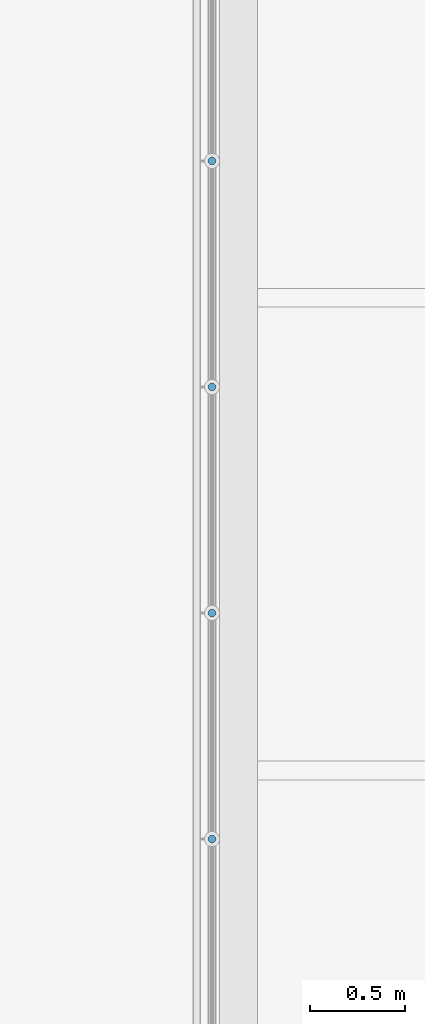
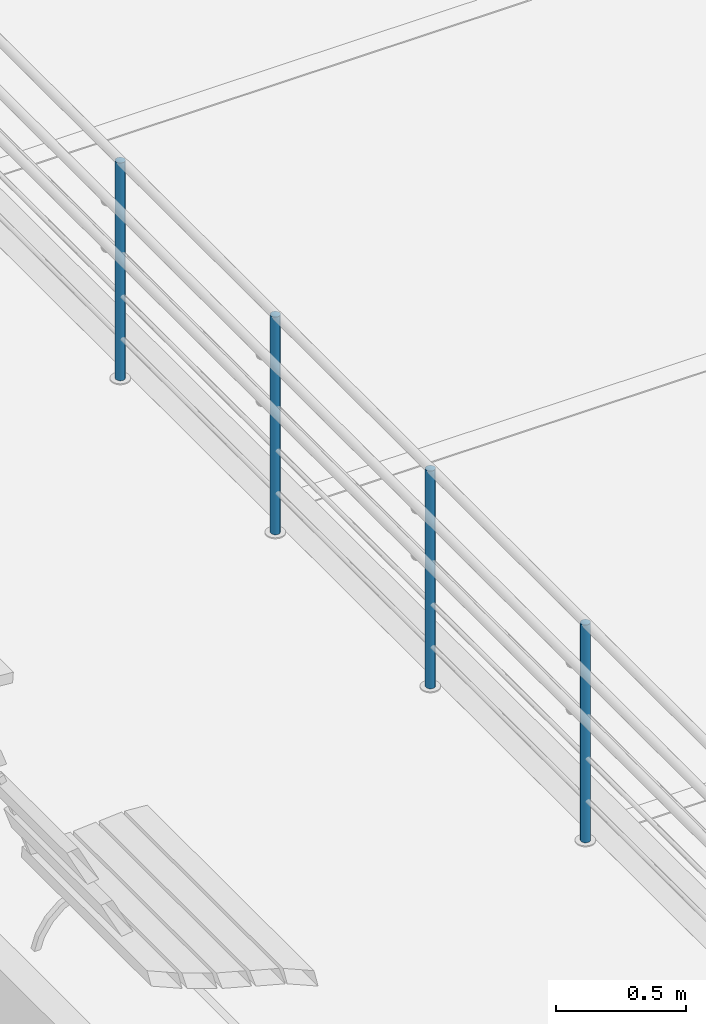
# One storey, part 77 of 237: 4 building element parts, 1 element without a shape of its own.
"""IFC2X3 building model written with IfcOpenShell, lengths in millimetres."""

from ifc_helpers import new_model, entity, si_unit, converted_unit, derived_unit, money_unit, direction, frame, origin_with_axes, place, context, subcontext, project, spatial, faceted_brep, material, type_object, element, aggregate, save


model = new_model("IFC2X3")

# Units and contexts
model_context = context("Model", 3, precision=0.01, world=origin_with_axes(), true_north=direction((0.0, 1.0)))
body_context = subcontext(model_context, "Body", "Model", "MODEL_VIEW")
ifc_project = project(units=[si_unit("LENGTHUNIT", "METRE", prefix="MILLI"), si_unit("AREAUNIT", "SQUARE_METRE"), si_unit("VOLUMEUNIT", "CUBIC_METRE"), converted_unit("PLANEANGLEUNIT", "DEGREE", entity("IfcPlaneAngleMeasure", 0.0174532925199), si_unit("PLANEANGLEUNIT", "RADIAN"), dimensions=[0, 0, 0, 0, 0, 0, 0]), money_unit("USD"), converted_unit("TIMEUNIT", "Year", entity("IfcTimeMeasure", 31556926.0), si_unit("TIMEUNIT", "SECOND"), dimensions=[0, 0, 1, 0, 0, 0, 0]), si_unit("MASSUNIT", "GRAM", prefix="KILO"), si_unit("THERMODYNAMICTEMPERATUREUNIT", "DEGREE_CELSIUS"), si_unit("LUMINOUSINTENSITYUNIT", "LUMEN"), si_unit("ENERGYUNIT", "JOULE", prefix="MEGA"), derived_unit("THERMALCONDUCTANCEUNIT", [(si_unit("POWERUNIT", "WATT"), 1), (si_unit("LENGTHUNIT", "METRE"), -1), (si_unit("THERMODYNAMICTEMPERATUREUNIT", "KELVIN"), -1)]), derived_unit("SPECIFICHEATCAPACITYUNIT", [(si_unit("ENERGYUNIT", "JOULE"), 1), (si_unit("MASSUNIT", "GRAM", prefix="KILO"), -1), (si_unit("THERMODYNAMICTEMPERATUREUNIT", "KELVIN"), -1)]), derived_unit("MASSDENSITYUNIT", [(si_unit("MASSUNIT", "GRAM", prefix="KILO"), 1), (si_unit("VOLUMEUNIT", "CUBIC_METRE"), -1)])], contexts=[model_context])

# Site, building, storey
site_placement = place(None, origin_with_axes())
site = spatial("IfcSite", under=ifc_project, at=site_placement, Name="Local", CompositionType="ELEMENT")
building_placement = place(site_placement, origin_with_axes())
building = spatial("IfcBuilding", under=site, at=building_placement, Name="Construção", CompositionType="ELEMENT")
storey_placement = place(building_placement, origin_with_axes())
storey = spatial("IfcBuildingStorey", under=building, at=storey_placement, Name="Pavimento Térreo", CompositionType="ELEMENT", Elevation=0.0)

# Railing, building element parts
railing_type = type_object("IfcRailingType", Name="Tipo de Guarda-Corpo", PredefinedType="NOTDEFINED")
railing_placement = place(storey_placement, frame((104000.0, 14000.0, -7099.22292764), z_axis=(0.0, 0.0, 1.0), x_axis=(1.0, 0.0, 0.0)))
railing = element("IfcRailing", 1, at=railing_placement, inside=storey, type_object=railing_type, Name="Guarda-Corpo - 001", PredefinedType="NOTDEFINED")
ifc_material = material(Name="Aço - Inoxidável")
building_element_part_1_placement = place(railing_placement, origin_with_axes())
building_element_part_1 = element("IfcBuildingElementPart", 2, at=building_element_part_1_placement, material=ifc_material, Name="Aço - Inoxidável", context=body_context, shape_type="Brep", body=[
    faceted_brep([(-3756.26416873, 5534.20454258, 2109.61538462), (-3755.96036975, 5537.67751016, 2109.61538462), (-3755.96036975, 5537.67751016, 3134.61538462), (-3756.26416873, 5534.20454258, 3134.61538462), (-3756.26426065, 5541.15046969, 2109.61538462), (-3757.16642681, 5530.83709133, 2109.61538462), (-3758.63972933, 5527.6774747, 2109.61538462), (-3760.63931075, 5524.82169604, 2109.61538462), (-3763.1044148, 5522.35652675, 2109.61538462), (-3765.96014053, 5520.35686974, 2109.61538462), (-3769.11971816, 5518.88348359, 2109.61538462), (-3772.48714554, 5517.98113638, 2109.61538462), (-3775.96010507, 5517.67724548, 2109.61538462), (-3779.43307264, 5517.98104446, 2109.61538462), (-3782.8005239, 5518.88330254, 2109.61538462), (-3785.96014053, 5520.35660507, 2109.61538462), (-3788.81591918, 5522.35618649, 2109.61538462), (-3791.28108848, 5524.82129053, 2109.61538462), (-3793.28074548, 5527.67701626, 2109.61538462), (-3794.75413164, 5530.8365939, 2109.61538462), (-3795.65647884, 5534.20402127, 2109.61538462), (-3795.96036975, 5537.6769808, 2109.61538462), (-3795.65657077, 5541.14994837, 2109.61538462), (-3794.75431269, 5544.51739963, 2109.61538462), (-3793.28101016, 5547.67701626, 2109.61538462), (-3791.28142874, 5550.53279492, 2109.61538462), (-3788.8163247, 5552.99796421, 2109.61538462), (-3785.96059896, 5554.99762121, 2109.61538462), (-3782.80102133, 5556.47100737, 2109.61538462), (-3779.43359396, 5557.37335458, 2109.61538462), (-3775.96063443, 5557.67724548, 2109.61538462), (-3772.48766685, 5557.3734465, 2109.61538462), (-3769.1202156, 5556.47118842, 2109.61538462), (-3765.96059897, 5554.99788589, 2109.61538462), (-3763.10482031, 5552.99830447, 2109.61538462), (-3760.63965102, 5550.53320043, 2109.61538462), (-3758.63999401, 5547.6774747, 2109.61538462), (-3757.16660786, 5544.51789706, 2109.61538462), (-3756.26426065, 5541.15046969, 3134.61538462), (-3779.43307264, 5517.98104446, 3134.61538462), (-3775.96010507, 5517.67724548, 3134.61538462), (-3772.48714554, 5517.98113638, 3134.61538462), (-3769.11971816, 5518.88348359, 3134.61538462), (-3765.96014053, 5520.35686974, 3134.61538462), (-3763.1044148, 5522.35652675, 3134.61538462), (-3760.63931075, 5524.82169604, 3134.61538462), (-3758.63972933, 5527.6774747, 3134.61538462), (-3757.16642681, 5530.83709133, 3134.61538462), (-3757.16660786, 5544.51789706, 3134.61538462), (-3758.63999401, 5547.6774747, 3134.61538462), (-3760.63965102, 5550.53320043, 3134.61538462), (-3763.10482031, 5552.99830447, 3134.61538462), (-3765.96059897, 5554.99788589, 3134.61538462), (-3769.1202156, 5556.47118842, 3134.61538462), (-3772.48766685, 5557.3734465, 3134.61538462), (-3775.96063443, 5557.67724548, 3134.61538462), (-3779.43359396, 5557.37335458, 3134.61538462), (-3782.80102133, 5556.47100737, 3134.61538462), (-3785.96059896, 5554.99762121, 3134.61538462), (-3788.8163247, 5552.99796421, 3134.61538462), (-3791.28142874, 5550.53279492, 3134.61538462), (-3793.28101016, 5547.67701626, 3134.61538462), (-3794.75431269, 5544.51739963, 3134.61538462), (-3795.65657077, 5541.14994837, 3134.61538462), (-3795.96036975, 5537.6769808, 3134.61538462), (-3795.65647884, 5534.20402127, 3134.61538462), (-3794.75413164, 5530.8365939, 3134.61538462), (-3793.28074548, 5527.67701626, 3134.61538462), (-3791.28108848, 5524.82129053, 3134.61538462), (-3788.81591918, 5522.35618649, 3134.61538462), (-3785.96014053, 5520.35660507, 3134.61538462), (-3782.8005239, 5518.88330254, 3134.61538462)], [[[0, 1, 2, 3]], [[4, 1, 0, 5, 6, 7, 8, 9, 10, 11, 12, 13, 14, 15, 16, 17, 18, 19, 20, 21, 22, 23, 24, 25, 26, 27, 28, 29, 30, 31, 32, 33, 34, 35, 36, 37]], [[1, 4, 38, 2]], [[39, 40, 41, 42, 43, 44, 45, 46, 47, 3, 2, 38, 48, 49, 50, 51, 52, 53, 54, 55, 56, 57, 58, 59, 60, 61, 62, 63, 64, 65, 66, 67, 68, 69, 70, 71]], [[5, 0, 3, 47]], [[6, 5, 47, 46]], [[7, 6, 46, 45]], [[8, 7, 45, 44]], [[9, 8, 44, 43]], [[10, 9, 43, 42]], [[11, 10, 42, 41]], [[12, 11, 41, 40]], [[13, 12, 40, 39]], [[14, 13, 39, 71]], [[15, 14, 71, 70]], [[16, 15, 70, 69]], [[17, 16, 69, 68]], [[18, 17, 68, 67]], [[19, 18, 67, 66]], [[20, 19, 66, 65]], [[21, 20, 65, 64]], [[22, 21, 64, 63]], [[23, 22, 63, 62]], [[24, 23, 62, 61]], [[25, 24, 61, 60]], [[26, 25, 60, 59]], [[27, 26, 59, 58]], [[28, 27, 58, 57]], [[29, 28, 57, 56]], [[30, 29, 56, 55]], [[31, 30, 55, 54]], [[32, 31, 54, 53]], [[33, 32, 53, 52]], [[34, 33, 52, 51]], [[35, 34, 51, 50]], [[36, 35, 50, 49]], [[37, 36, 49, 48]], [[4, 37, 48, 38]]]),
])
building_element_part_2_placement = place(railing_placement, origin_with_axes())
building_element_part_2 = element("IfcBuildingElementPart", 3, at=building_element_part_2_placement, material=ifc_material, Name="Aço - Inoxidável", context=body_context, shape_type="Brep", body=[
    faceted_brep([(-3756.27999381, 6729.99946903, 2109.61538462), (-3755.97619483, 6733.47243661, 2109.61538462), (-3755.97619483, 6733.47243661, 3134.61538462), (-3756.27999381, 6729.99946903, 3134.61538462), (-3756.28008573, 6736.94539614, 2109.61538462), (-3757.18225189, 6726.63201778, 2109.61538462), (-3758.65555441, 6723.47240115, 2109.61538462), (-3760.65513583, 6720.61662249, 2109.61538462), (-3763.12023988, 6718.1514532, 2109.61538462), (-3765.97596561, 6716.15179619, 2109.61538462), (-3769.13554324, 6714.67841004, 2109.61538462), (-3772.50297062, 6713.77606283, 2109.61538462), (-3775.97593015, 6713.47217193, 2109.61538462), (-3779.44889772, 6713.77597091, 2109.61538462), (-3782.81634898, 6714.67822899, 2109.61538462), (-3785.97596561, 6716.15153151, 2109.61538462), (-3788.83174426, 6718.15111293, 2109.61538462), (-3791.29691356, 6720.61621698, 2109.61538462), (-3793.29657056, 6723.47194271, 2109.61538462), (-3794.76995672, 6726.63152035, 2109.61538462), (-3795.67230392, 6729.99894772, 2109.61538462), (-3795.97619483, 6733.47190725, 2109.61538462), (-3795.67239585, 6736.94487482, 2109.61538462), (-3794.77013777, 6740.31232608, 2109.61538462), (-3793.29683524, 6743.47194271, 2109.61538462), (-3791.29725382, 6746.32772137, 2109.61538462), (-3788.83214978, 6748.79289066, 2109.61538462), (-3785.97642404, 6750.79254766, 2109.61538462), (-3782.81684641, 6752.26593382, 2109.61538462), (-3779.44941904, 6753.16828103, 2109.61538462), (-3775.97645951, 6753.47217193, 2109.61538462), (-3772.50349193, 6753.16837295, 2109.61538462), (-3769.13604068, 6752.26611487, 2109.61538462), (-3765.97642405, 6750.79281234, 2109.61538462), (-3763.12064539, 6748.79323092, 2109.61538462), (-3760.6554761, 6746.32812688, 2109.61538462), (-3758.65581909, 6743.47240115, 2109.61538462), (-3757.18243294, 6740.31282351, 2109.61538462), (-3756.28008573, 6736.94539614, 3134.61538462), (-3779.44889772, 6713.77597091, 3134.61538462), (-3775.97593015, 6713.47217193, 3134.61538462), (-3772.50297062, 6713.77606283, 3134.61538462), (-3769.13554324, 6714.67841004, 3134.61538462), (-3765.97596561, 6716.15179619, 3134.61538462), (-3763.12023988, 6718.1514532, 3134.61538462), (-3760.65513583, 6720.61662249, 3134.61538462), (-3758.65555441, 6723.47240115, 3134.61538462), (-3757.18225189, 6726.63201778, 3134.61538462), (-3757.18243294, 6740.31282351, 3134.61538462), (-3758.65581909, 6743.47240115, 3134.61538462), (-3760.6554761, 6746.32812688, 3134.61538462), (-3763.12064539, 6748.79323092, 3134.61538462), (-3765.97642405, 6750.79281234, 3134.61538462), (-3769.13604068, 6752.26611487, 3134.61538462), (-3772.50349193, 6753.16837295, 3134.61538462), (-3775.97645951, 6753.47217193, 3134.61538462), (-3779.44941904, 6753.16828103, 3134.61538462), (-3782.81684641, 6752.26593382, 3134.61538462), (-3785.97642404, 6750.79254766, 3134.61538462), (-3788.83214978, 6748.79289066, 3134.61538462), (-3791.29725382, 6746.32772137, 3134.61538462), (-3793.29683524, 6743.47194271, 3134.61538462), (-3794.77013777, 6740.31232608, 3134.61538462), (-3795.67239585, 6736.94487482, 3134.61538462), (-3795.97619483, 6733.47190725, 3134.61538462), (-3795.67230392, 6729.99894772, 3134.61538462), (-3794.76995672, 6726.63152035, 3134.61538462), (-3793.29657056, 6723.47194271, 3134.61538462), (-3791.29691356, 6720.61621698, 3134.61538462), (-3788.83174426, 6718.15111293, 3134.61538462), (-3785.97596561, 6716.15153151, 3134.61538462), (-3782.81634898, 6714.67822899, 3134.61538462)], [[[0, 1, 2, 3]], [[4, 1, 0, 5, 6, 7, 8, 9, 10, 11, 12, 13, 14, 15, 16, 17, 18, 19, 20, 21, 22, 23, 24, 25, 26, 27, 28, 29, 30, 31, 32, 33, 34, 35, 36, 37]], [[1, 4, 38, 2]], [[39, 40, 41, 42, 43, 44, 45, 46, 47, 3, 2, 38, 48, 49, 50, 51, 52, 53, 54, 55, 56, 57, 58, 59, 60, 61, 62, 63, 64, 65, 66, 67, 68, 69, 70, 71]], [[5, 0, 3, 47]], [[6, 5, 47, 46]], [[7, 6, 46, 45]], [[8, 7, 45, 44]], [[9, 8, 44, 43]], [[10, 9, 43, 42]], [[11, 10, 42, 41]], [[12, 11, 41, 40]], [[13, 12, 40, 39]], [[14, 13, 39, 71]], [[15, 14, 71, 70]], [[16, 15, 70, 69]], [[17, 16, 69, 68]], [[18, 17, 68, 67]], [[19, 18, 67, 66]], [[20, 19, 66, 65]], [[21, 20, 65, 64]], [[22, 21, 64, 63]], [[23, 22, 63, 62]], [[24, 23, 62, 61]], [[25, 24, 61, 60]], [[26, 25, 60, 59]], [[27, 26, 59, 58]], [[28, 27, 58, 57]], [[29, 28, 57, 56]], [[30, 29, 56, 55]], [[31, 30, 55, 54]], [[32, 31, 54, 53]], [[33, 32, 53, 52]], [[34, 33, 52, 51]], [[35, 34, 51, 50]], [[36, 35, 50, 49]], [[37, 36, 49, 48]], [[4, 37, 48, 38]]]),
])
building_element_part_3_placement = place(railing_placement, origin_with_axes())
building_element_part_3 = element("IfcBuildingElementPart", 4, at=building_element_part_3_placement, material=ifc_material, Name="Aço - Inoxidável", context=body_context, shape_type="Brep", body=[
    faceted_brep([(-3756.29581889, 7925.79439548, 2109.61538462), (-3755.99201991, 7929.26736306, 2109.61538462), (-3755.99201991, 7929.26736306, 3134.61538462), (-3756.29581889, 7925.79439548, 3134.61538462), (-3756.29591081, 7932.74032259, 2109.61538462), (-3757.19807697, 7922.42694423, 2109.61538462), (-3758.67137949, 7919.2673276, 2109.61538462), (-3760.67096091, 7916.41154894, 2109.61538462), (-3763.13606496, 7913.94637965, 2109.61538462), (-3765.99179069, 7911.94672264, 2109.61538462), (-3769.15136832, 7910.47333649, 2109.61538462), (-3772.5187957, 7909.57098928, 2109.61538462), (-3775.99175523, 7909.26709838, 2109.61538462), (-3779.4647228, 7909.57089736, 2109.61538462), (-3782.83217406, 7910.47315544, 2109.61538462), (-3785.99179069, 7911.94645796, 2109.61538462), (-3788.84756934, 7913.94603938, 2109.61538462), (-3791.31273864, 7916.41114343, 2109.61538462), (-3793.31239564, 7919.26686916, 2109.61538462), (-3794.7857818, 7922.42644679, 2109.61538462), (-3795.688129, 7925.79387417, 2109.61538462), (-3795.9920199, 7929.2668337, 2109.61538462), (-3795.68822093, 7932.73980127, 2109.61538462), (-3794.78596285, 7936.10725253, 2109.61538462), (-3793.31266032, 7939.26686916, 2109.61538462), (-3791.3130789, 7942.12264781, 2109.61538462), (-3788.84797485, 7944.58781711, 2109.61538462), (-3785.99224912, 7946.58747411, 2109.61538462), (-3782.83267149, 7948.06086027, 2109.61538462), (-3779.46524412, 7948.96320747, 2109.61538462), (-3775.99228459, 7949.26709838, 2109.61538462), (-3772.51931701, 7948.9632994, 2109.61538462), (-3769.15186576, 7948.06104132, 2109.61538462), (-3765.99224913, 7946.58773879, 2109.61538462), (-3763.13647047, 7944.58815737, 2109.61538462), (-3760.67130118, 7942.12305333, 2109.61538462), (-3758.67164417, 7939.26732759, 2109.61538462), (-3757.19825802, 7936.10774996, 2109.61538462), (-3756.29591081, 7932.74032259, 3134.61538462), (-3779.4647228, 7909.57089736, 3134.61538462), (-3775.99175523, 7909.26709838, 3134.61538462), (-3772.5187957, 7909.57098928, 3134.61538462), (-3769.15136832, 7910.47333649, 3134.61538462), (-3765.99179069, 7911.94672264, 3134.61538462), (-3763.13606496, 7913.94637965, 3134.61538462), (-3760.67096091, 7916.41154894, 3134.61538462), (-3758.67137949, 7919.2673276, 3134.61538462), (-3757.19807697, 7922.42694423, 3134.61538462), (-3757.19825802, 7936.10774996, 3134.61538462), (-3758.67164417, 7939.26732759, 3134.61538462), (-3760.67130118, 7942.12305333, 3134.61538462), (-3763.13647047, 7944.58815737, 3134.61538462), (-3765.99224913, 7946.58773879, 3134.61538462), (-3769.15186576, 7948.06104132, 3134.61538462), (-3772.51931701, 7948.9632994, 3134.61538462), (-3775.99228459, 7949.26709838, 3134.61538462), (-3779.46524412, 7948.96320747, 3134.61538462), (-3782.83267149, 7948.06086027, 3134.61538462), (-3785.99224912, 7946.58747411, 3134.61538462), (-3788.84797485, 7944.58781711, 3134.61538462), (-3791.3130789, 7942.12264781, 3134.61538462), (-3793.31266032, 7939.26686916, 3134.61538462), (-3794.78596285, 7936.10725253, 3134.61538462), (-3795.68822093, 7932.73980127, 3134.61538462), (-3795.9920199, 7929.2668337, 3134.61538462), (-3795.688129, 7925.79387417, 3134.61538462), (-3794.7857818, 7922.42644679, 3134.61538462), (-3793.31239564, 7919.26686916, 3134.61538462), (-3791.31273864, 7916.41114343, 3134.61538462), (-3788.84756934, 7913.94603938, 3134.61538462), (-3785.99179069, 7911.94645796, 3134.61538462), (-3782.83217406, 7910.47315544, 3134.61538462)], [[[0, 1, 2, 3]], [[4, 1, 0, 5, 6, 7, 8, 9, 10, 11, 12, 13, 14, 15, 16, 17, 18, 19, 20, 21, 22, 23, 24, 25, 26, 27, 28, 29, 30, 31, 32, 33, 34, 35, 36, 37]], [[1, 4, 38, 2]], [[39, 40, 41, 42, 43, 44, 45, 46, 47, 3, 2, 38, 48, 49, 50, 51, 52, 53, 54, 55, 56, 57, 58, 59, 60, 61, 62, 63, 64, 65, 66, 67, 68, 69, 70, 71]], [[5, 0, 3, 47]], [[6, 5, 47, 46]], [[7, 6, 46, 45]], [[8, 7, 45, 44]], [[9, 8, 44, 43]], [[10, 9, 43, 42]], [[11, 10, 42, 41]], [[12, 11, 41, 40]], [[13, 12, 40, 39]], [[14, 13, 39, 71]], [[15, 14, 71, 70]], [[16, 15, 70, 69]], [[17, 16, 69, 68]], [[18, 17, 68, 67]], [[19, 18, 67, 66]], [[20, 19, 66, 65]], [[21, 20, 65, 64]], [[22, 21, 64, 63]], [[23, 22, 63, 62]], [[24, 23, 62, 61]], [[25, 24, 61, 60]], [[26, 25, 60, 59]], [[27, 26, 59, 58]], [[28, 27, 58, 57]], [[29, 28, 57, 56]], [[30, 29, 56, 55]], [[31, 30, 55, 54]], [[32, 31, 54, 53]], [[33, 32, 53, 52]], [[34, 33, 52, 51]], [[35, 34, 51, 50]], [[36, 35, 50, 49]], [[37, 36, 49, 48]], [[4, 37, 48, 38]]]),
])
building_element_part_4_placement = place(railing_placement, origin_with_axes())
building_element_part_4 = element("IfcBuildingElementPart", 5, at=building_element_part_4_placement, material=ifc_material, Name="Aço - Inoxidável", context=body_context, shape_type="Brep", body=[
    faceted_brep([(-3756.31164397, 9121.58932193, 2109.61538462), (-3756.00784499, 9125.0622895, 2109.61538462), (-3756.00784499, 9125.0622895, 3134.61538462), (-3756.31164397, 9121.58932193, 3134.61538462), (-3756.31173589, 9128.53524904, 2109.61538462), (-3757.21390205, 9118.22187068, 2109.61538462), (-3758.68720457, 9115.06225405, 2109.61538462), (-3760.68678599, 9112.20647539, 2109.61538462), (-3763.15189004, 9109.7413061, 2109.61538462), (-3766.00761577, 9107.74164909, 2109.61538462), (-3769.1671934, 9106.26826294, 2109.61538462), (-3772.53462078, 9105.36591573, 2109.61538462), (-3776.00758031, 9105.06202483, 2109.61538462), (-3779.48054788, 9105.36582381, 2109.61538462), (-3782.84799914, 9106.26808189, 2109.61538462), (-3786.00761577, 9107.74138441, 2109.61538462), (-3788.86339442, 9109.74096583, 2109.61538462), (-3791.32856371, 9112.20606988, 2109.61538462), (-3793.32822072, 9115.06179561, 2109.61538462), (-3794.80160687, 9118.22137324, 2109.61538462), (-3795.70395408, 9121.58880062, 2109.61538462), (-3796.00784498, 9125.06176015, 2109.61538462), (-3795.70404601, 9128.53472772, 2109.61538462), (-3794.80178793, 9131.90217898, 2109.61538462), (-3793.3284854, 9135.06179561, 2109.61538462), (-3791.32890398, 9137.91757426, 2109.61538462), (-3788.86379993, 9140.38274355, 2109.61538462), (-3786.0080742, 9142.38240056, 2109.61538462), (-3782.84849657, 9143.85578671, 2109.61538462), (-3779.4810692, 9144.75813392, 2109.61538462), (-3776.00810967, 9145.06202482, 2109.61538462), (-3772.53514209, 9144.75822585, 2109.61538462), (-3769.16769084, 9143.85596777, 2109.61538462), (-3766.00807421, 9142.38266524, 2109.61538462), (-3763.15229555, 9140.38308382, 2109.61538462), (-3760.68712626, 9137.91797977, 2109.61538462), (-3758.68746925, 9135.06225404, 2109.61538462), (-3757.2140831, 9131.90267641, 2109.61538462), (-3756.31173589, 9128.53524904, 3134.61538462), (-3779.48054788, 9105.36582381, 3134.61538462), (-3776.00758031, 9105.06202483, 3134.61538462), (-3772.53462078, 9105.36591573, 3134.61538462), (-3769.1671934, 9106.26826294, 3134.61538462), (-3766.00761577, 9107.74164909, 3134.61538462), (-3763.15189004, 9109.7413061, 3134.61538462), (-3760.68678599, 9112.20647539, 3134.61538462), (-3758.68720457, 9115.06225405, 3134.61538462), (-3757.21390205, 9118.22187068, 3134.61538462), (-3757.2140831, 9131.90267641, 3134.61538462), (-3758.68746925, 9135.06225404, 3134.61538462), (-3760.68712626, 9137.91797977, 3134.61538462), (-3763.15229555, 9140.38308382, 3134.61538462), (-3766.00807421, 9142.38266524, 3134.61538462), (-3769.16769084, 9143.85596777, 3134.61538462), (-3772.53514209, 9144.75822585, 3134.61538462), (-3776.00810967, 9145.06202482, 3134.61538462), (-3779.4810692, 9144.75813392, 3134.61538462), (-3782.84849657, 9143.85578671, 3134.61538462), (-3786.0080742, 9142.38240056, 3134.61538462), (-3788.86379993, 9140.38274355, 3134.61538462), (-3791.32890398, 9137.91757426, 3134.61538462), (-3793.3284854, 9135.06179561, 3134.61538462), (-3794.80178793, 9131.90217898, 3134.61538462), (-3795.70404601, 9128.53472772, 3134.61538462), (-3796.00784498, 9125.06176015, 3134.61538462), (-3795.70395408, 9121.58880062, 3134.61538462), (-3794.80160687, 9118.22137324, 3134.61538462), (-3793.32822072, 9115.06179561, 3134.61538462), (-3791.32856371, 9112.20606988, 3134.61538462), (-3788.86339442, 9109.74096583, 3134.61538462), (-3786.00761577, 9107.74138441, 3134.61538462), (-3782.84799914, 9106.26808189, 3134.61538462)], [[[0, 1, 2, 3]], [[4, 1, 0, 5, 6, 7, 8, 9, 10, 11, 12, 13, 14, 15, 16, 17, 18, 19, 20, 21, 22, 23, 24, 25, 26, 27, 28, 29, 30, 31, 32, 33, 34, 35, 36, 37]], [[1, 4, 38, 2]], [[39, 40, 41, 42, 43, 44, 45, 46, 47, 3, 2, 38, 48, 49, 50, 51, 52, 53, 54, 55, 56, 57, 58, 59, 60, 61, 62, 63, 64, 65, 66, 67, 68, 69, 70, 71]], [[5, 0, 3, 47]], [[6, 5, 47, 46]], [[7, 6, 46, 45]], [[8, 7, 45, 44]], [[9, 8, 44, 43]], [[10, 9, 43, 42]], [[11, 10, 42, 41]], [[12, 11, 41, 40]], [[13, 12, 40, 39]], [[14, 13, 39, 71]], [[15, 14, 71, 70]], [[16, 15, 70, 69]], [[17, 16, 69, 68]], [[18, 17, 68, 67]], [[19, 18, 67, 66]], [[20, 19, 66, 65]], [[21, 20, 65, 64]], [[22, 21, 64, 63]], [[23, 22, 63, 62]], [[24, 23, 62, 61]], [[25, 24, 61, 60]], [[26, 25, 60, 59]], [[27, 26, 59, 58]], [[28, 27, 58, 57]], [[29, 28, 57, 56]], [[30, 29, 56, 55]], [[31, 30, 55, 54]], [[32, 31, 54, 53]], [[33, 32, 53, 52]], [[34, 33, 52, 51]], [[35, 34, 51, 50]], [[36, 35, 50, 49]], [[37, 36, 49, 48]], [[4, 37, 48, 38]]]),
])
aggregate(railing, [building_element_part_1, building_element_part_2, building_element_part_3, building_element_part_4])

save(model, "model.ifc")
